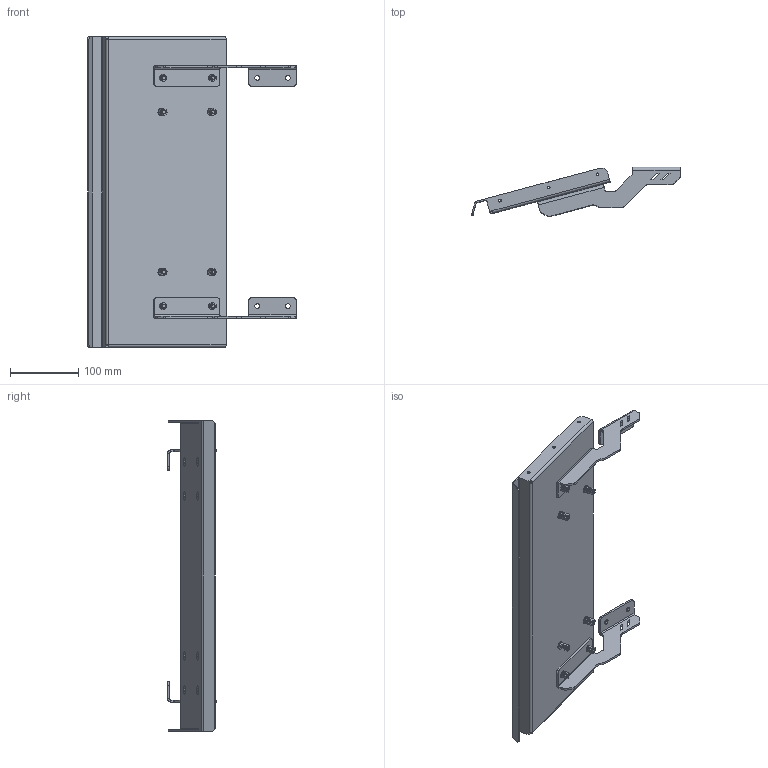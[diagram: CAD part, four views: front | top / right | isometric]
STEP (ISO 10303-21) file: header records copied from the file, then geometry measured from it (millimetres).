
FILE_DESCRIPTION (( 'STEP AP203' ), '1' );
FILE_NAME ('KLV.SC.N.1.STEP', '2024-10-18T11:21:43', ( '' ), ( '' ), 'SwSTEP 2.0', 'SolidWorks 2022', '' );
FILE_SCHEMA (( 'CONFIG_CONTROL_DESIGN' ));
Length unit declared in the file: millimetre
Products named in the file (1): KLV.SC.N.1
Bounding box: 306.41 x 72.41 x 456 mm (x, y, z)
Volume: 294019.6 mm3; surface area: 284209.9 mm2
Topology: 1 solids, 97 shells, 1192 faces, 3127 edges, 1945 vertices
Faces by surface type: cone 504, plane 322, cylinder 286, sphere 48, torus 32
Full cylindrical faces by diameter (mm): 4.2 x6, 4.9 x8, 7 x4, 7.8 x8, 11 x8, 11.6 x8
Entity records: 30173 total; most frequent: DIRECTION 5398, CARTESIAN_POINT 5157, ORIENTED_EDGE 4280, AXIS2_PLACEMENT_3D 2161, EDGE_CURVE 2140, EDGE_LOOP 1862, VERTEX_POINT 1536, FACE_OUTER_BOUND 1266
